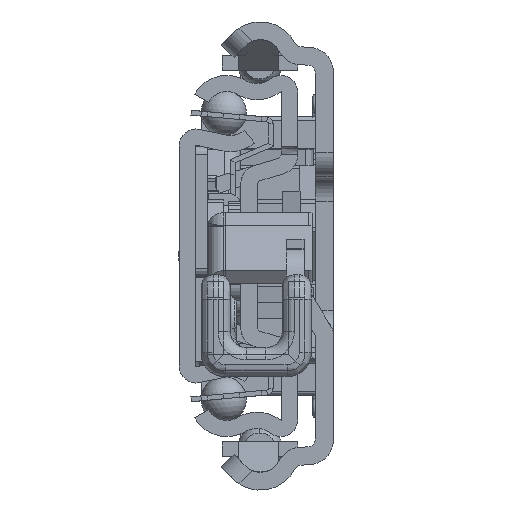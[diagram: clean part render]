
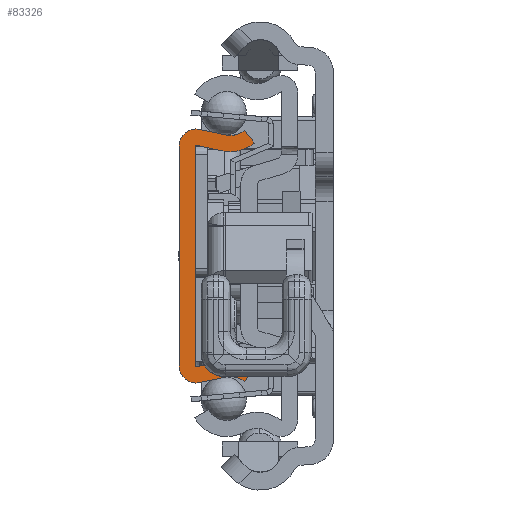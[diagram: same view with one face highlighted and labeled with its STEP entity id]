
A CAD part, left-side view. The second image highlights one B-rep face of the part: STEP entity #83326.
In plain terms, the highlighted planar face has unit normal (-1, 0, 0).
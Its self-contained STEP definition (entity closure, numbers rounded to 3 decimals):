
#77850=CARTESIAN_POINT('',(0.,-6.29,-17.65));
#77851=DIRECTION('',(-1.,0.,0.));
#77852=DIRECTION('',(0.,-0.629,0.778));
#77853=AXIS2_PLACEMENT_3D('',#77850,#77851,#77852);
#77855=DIRECTION('',(0.,0.977,-0.213));
#77856=VECTOR('',#77855,3.218);
#77857=CARTESIAN_POINT('',(0.,-5.692,-14.915));
#77858=LINE('',#77857,#77856);
#77859=CARTESIAN_POINT('',(0.,-2.1,-13.55));
#77860=DIRECTION('',(1.,0.,0.));
#77861=DIRECTION('',(0.,-0.213,-0.977));
#77862=AXIS2_PLACEMENT_3D('',#77859,#77860,#77861);
#77864=DIRECTION('',(0.,0.,1.));
#77865=VECTOR('',#77864,27.1);
#77866=CARTESIAN_POINT('',(0.,0.,-13.55));
#77867=LINE('',#77866,#77865);
#77868=CARTESIAN_POINT('',(0.,-2.1,13.55));
#77869=DIRECTION('',(1.,0.,0.));
#77870=DIRECTION('',(0.,1.,0.));
#77871=AXIS2_PLACEMENT_3D('',#77868,#77869,#77870);
#77873=DIRECTION('',(0.,-0.977,-0.213));
#77874=VECTOR('',#77873,3.218);
#77875=CARTESIAN_POINT('',(0.,-2.548,15.602));
#77876=LINE('',#77875,#77874);
#77877=CARTESIAN_POINT('',(0.,-6.29,17.65));
#77878=DIRECTION('',(-1.,0.,0.));
#77879=DIRECTION('',(0.,0.213,-0.977));
#77880=AXIS2_PLACEMENT_3D('',#77877,#77878,#77879);
#77882=DIRECTION('',(0.,-0.629,-0.778));
#77883=VECTOR('',#77882,2.);
#77884=CARTESIAN_POINT('',(0.,-8.05,15.472));
#77885=LINE('',#77884,#77883);
#77886=CARTESIAN_POINT('',(0.,-6.29,17.65));
#77887=DIRECTION('',(1.,0.,0.));
#77888=DIRECTION('',(0.,-0.629,-0.778));
#77889=AXIS2_PLACEMENT_3D('',#77886,#77887,#77888);
#77891=DIRECTION('',(0.,0.977,0.213));
#77892=VECTOR('',#77891,3.218);
#77893=CARTESIAN_POINT('',(0.,-5.265,12.961));
#77894=LINE('',#77893,#77892);
#77895=CARTESIAN_POINT('',(0.,-2.1,13.55));
#77896=DIRECTION('',(-1.,0.,0.));
#77897=DIRECTION('',(0.,-0.213,0.977));
#77898=AXIS2_PLACEMENT_3D('',#77895,#77896,#77897);
#77900=DIRECTION('',(0.,0.,-1.));
#77901=VECTOR('',#77900,27.1);
#77902=CARTESIAN_POINT('',(0.,-2.,13.55));
#77903=LINE('',#77902,#77901);
#77904=CARTESIAN_POINT('',(0.,-2.1,-13.55));
#77905=DIRECTION('',(-1.,0.,0.));
#77906=DIRECTION('',(0.,1.,0.));
#77907=AXIS2_PLACEMENT_3D('',#77904,#77905,#77906);
#77909=DIRECTION('',(0.,-0.977,0.213));
#77910=VECTOR('',#77909,3.218);
#77911=CARTESIAN_POINT('',(0.,-2.121,-13.648));
#77912=LINE('',#77911,#77910);
#77913=CARTESIAN_POINT('',(0.,-6.29,-17.65));
#77914=DIRECTION('',(1.,0.,0.));
#77915=DIRECTION('',(0.,0.213,0.977));
#77916=AXIS2_PLACEMENT_3D('',#77913,#77914,#77915);
#77918=DIRECTION('',(0.,0.629,-0.778));
#77919=VECTOR('',#77918,2.);
#77920=CARTESIAN_POINT('',(0.,-9.307,-13.917));
#77921=LINE('',#77920,#77919);
#82027=CARTESIAN_POINT('',(0.,-8.05,-15.472));
#82028=CARTESIAN_POINT('',(0.,-5.692,-14.915));
#82029=VERTEX_POINT('',#82027);
#82030=VERTEX_POINT('',#82028);
#82031=CARTESIAN_POINT('',(0.,-2.548,-15.602));
#82032=VERTEX_POINT('',#82031);
#82033=CARTESIAN_POINT('',(0.,0.,-13.55));
#82034=VERTEX_POINT('',#82033);
#82035=CARTESIAN_POINT('',(0.,0.,13.55));
#82036=VERTEX_POINT('',#82035);
#82037=CARTESIAN_POINT('',(0.,-2.548,15.602));
#82038=VERTEX_POINT('',#82037);
#82039=CARTESIAN_POINT('',(0.,-5.692,14.915));
#82040=VERTEX_POINT('',#82039);
#82041=CARTESIAN_POINT('',(0.,-8.05,15.472));
#82042=VERTEX_POINT('',#82041);
#82043=CARTESIAN_POINT('',(0.,-9.307,13.917));
#82044=VERTEX_POINT('',#82043);
#82045=CARTESIAN_POINT('',(0.,-5.265,12.961));
#82046=VERTEX_POINT('',#82045);
#82047=CARTESIAN_POINT('',(0.,-2.121,13.648));
#82048=VERTEX_POINT('',#82047);
#82049=CARTESIAN_POINT('',(0.,-2.,13.55));
#82050=VERTEX_POINT('',#82049);
#82051=CARTESIAN_POINT('',(0.,-2.,-13.55));
#82052=VERTEX_POINT('',#82051);
#82053=CARTESIAN_POINT('',(0.,-2.121,-13.648));
#82054=VERTEX_POINT('',#82053);
#82055=CARTESIAN_POINT('',(0.,-5.265,-12.961));
#82056=VERTEX_POINT('',#82055);
#82057=CARTESIAN_POINT('',(0.,-9.307,-13.917));
#82058=VERTEX_POINT('',#82057);
#83290=CARTESIAN_POINT('',(0.,0.,0.));
#83291=DIRECTION('',(1.,0.,0.));
#83292=DIRECTION('',(0.,-1.,0.));
#83293=AXIS2_PLACEMENT_3D('',#83290,#83291,#83292);
#83294=PLANE('',#83293);
#83295=ORIENTED_EDGE('',*,*,#83059,.T.);
#83296=ORIENTED_EDGE('',*,*,#83230,.T.);
#83298=ORIENTED_EDGE('',*,*,#83297,.T.);
#83300=ORIENTED_EDGE('',*,*,#83299,.T.);
#83302=ORIENTED_EDGE('',*,*,#83301,.T.);
#83304=ORIENTED_EDGE('',*,*,#83303,.T.);
#83306=ORIENTED_EDGE('',*,*,#83305,.T.);
#83308=ORIENTED_EDGE('',*,*,#83307,.T.);
#83310=ORIENTED_EDGE('',*,*,#83309,.T.);
#83312=ORIENTED_EDGE('',*,*,#83311,.T.);
#83314=ORIENTED_EDGE('',*,*,#83313,.T.);
#83316=ORIENTED_EDGE('',*,*,#83315,.T.);
#83318=ORIENTED_EDGE('',*,*,#83317,.T.);
#83320=ORIENTED_EDGE('',*,*,#83319,.T.);
#83322=ORIENTED_EDGE('',*,*,#83321,.T.);
#83323=ORIENTED_EDGE('',*,*,#83281,.T.);
#83324=EDGE_LOOP('',(#83295,#83296,#83298,#83300,#83302,#83304,#83306,#83308,
#83310,#83312,#83314,#83316,#83318,#83320,#83322,#83323));
#83325=FACE_OUTER_BOUND('',#83324,.F.);
#77854=CIRCLE('',#77853,2.8);
#77863=CIRCLE('',#77862,2.1);
#77872=CIRCLE('',#77871,2.1);
#77881=CIRCLE('',#77880,2.8);
#77890=CIRCLE('',#77889,4.8);
#77899=CIRCLE('',#77898,0.1);
#77908=CIRCLE('',#77907,0.1);
#77917=CIRCLE('',#77916,4.8);
#83059=EDGE_CURVE('',#82029,#82030,#77854,.T.);
#83230=EDGE_CURVE('',#82030,#82032,#77858,.T.);
#83281=EDGE_CURVE('',#82058,#82029,#77921,.T.);
#83297=EDGE_CURVE('',#82032,#82034,#77863,.T.);
#83299=EDGE_CURVE('',#82034,#82036,#77867,.T.);
#83301=EDGE_CURVE('',#82036,#82038,#77872,.T.);
#83303=EDGE_CURVE('',#82038,#82040,#77876,.T.);
#83305=EDGE_CURVE('',#82040,#82042,#77881,.T.);
#83307=EDGE_CURVE('',#82042,#82044,#77885,.T.);
#83309=EDGE_CURVE('',#82044,#82046,#77890,.T.);
#83311=EDGE_CURVE('',#82046,#82048,#77894,.T.);
#83313=EDGE_CURVE('',#82048,#82050,#77899,.T.);
#83315=EDGE_CURVE('',#82050,#82052,#77903,.T.);
#83317=EDGE_CURVE('',#82052,#82054,#77908,.T.);
#83319=EDGE_CURVE('',#82054,#82056,#77912,.T.);
#83321=EDGE_CURVE('',#82056,#82058,#77917,.T.);
#83326=ADVANCED_FACE('',(#83325),#83294,.F.);
